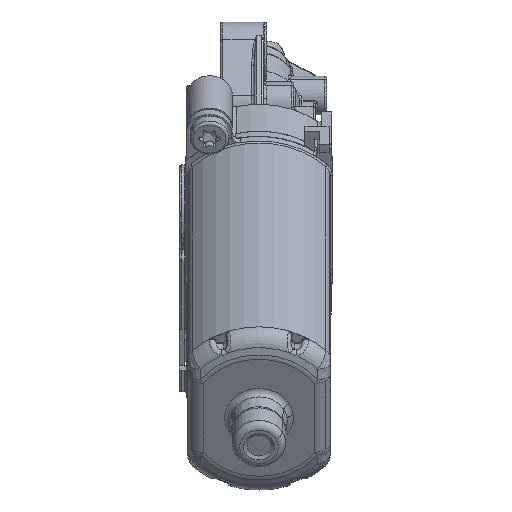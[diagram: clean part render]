
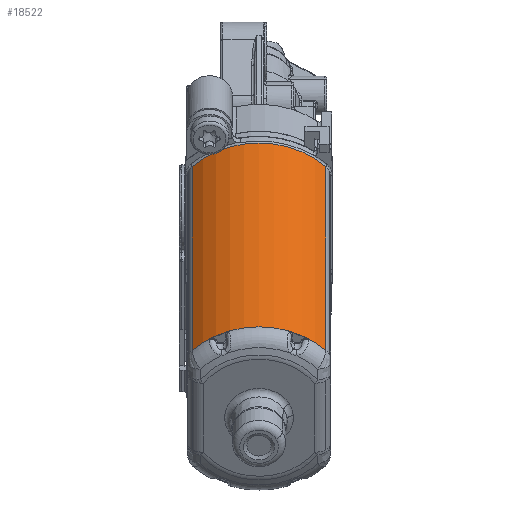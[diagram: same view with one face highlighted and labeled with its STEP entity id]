
A CAD part, left-side view. The second image highlights one B-rep face of the part: STEP entity #18522.
In plain terms, the highlighted cylindrical face has radius 19.525 mm (diameter 39.05 mm), a partial arc.
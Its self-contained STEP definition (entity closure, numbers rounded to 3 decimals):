
#10199=AXIS2_PLACEMENT_3D('Circle Axis2P3D',#10197,#10198,$) ;
#18495=AXIS2_PLACEMENT_3D('Cylinder Axis2P3D',#18492,#18493,#18494) ;
#18506=AXIS2_PLACEMENT_3D('Circle Axis2P3D',#18504,#18505,$) ;
#10194=CARTESIAN_POINT('Vertex',(-43.164,51.413,13.899)) ;
#10197=CARTESIAN_POINT('Axis2P3D Location',(-35.911,37.574,2.19)) ;
#10201=CARTESIAN_POINT('Vertex',(-43.164,23.735,13.899)) ;
#18492=CARTESIAN_POINT('Axis2P3D Location',(-64.561,37.574,-15.555)) ;
#18497=CARTESIAN_POINT('Line Origine',(-71.813,51.413,-3.846)) ;
#18501=CARTESIAN_POINT('Vertex',(-104.545,51.413,-24.119)) ;
#18504=CARTESIAN_POINT('Axis2P3D Location',(-97.292,37.574,-35.829)) ;
#18508=CARTESIAN_POINT('Vertex',(-104.545,23.735,-24.119)) ;
#18511=CARTESIAN_POINT('Line Origine',(-71.813,23.735,-3.846)) ;
#10198=DIRECTION('Axis2P3D Direction',(-0.85,0.,-0.527)) ;
#18493=DIRECTION('Axis2P3D Direction',(-0.85,0.,-0.527)) ;
#18494=DIRECTION('Axis2P3D XDirection',(-0.252,-0.878,0.408)) ;
#18498=DIRECTION('Vector Direction',(-0.85,0.,-0.527)) ;
#18505=DIRECTION('Axis2P3D Direction',(-0.85,0.,-0.527)) ;
#18512=DIRECTION('Vector Direction',(-0.85,0.,-0.527)) ;
#18499=VECTOR('Line Direction',#18498,1.) ;
#18513=VECTOR('Line Direction',#18512,1.) ;
#18517=ORIENTED_EDGE('',*,*,#18503,.F.) ;
#18518=ORIENTED_EDGE('',*,*,#18510,.F.) ;
#18519=ORIENTED_EDGE('',*,*,#18515,.T.) ;
#18520=ORIENTED_EDGE('',*,*,#10203,.F.) ;
#18522=ADVANCED_FACE('',(#18521),#18496,.T.) ;
#10200=CIRCLE('generated circle',#10199,19.525) ;
#18507=CIRCLE('generated circle',#18506,19.525) ;
#18496=CYLINDRICAL_SURFACE('generated cylinder',#18495,19.525) ;
#10203=EDGE_CURVE('',#10195,#10202,#10200,.F.) ;
#18503=EDGE_CURVE('',#18502,#10195,#18500,.F.) ;
#18510=EDGE_CURVE('',#18509,#18502,#18507,.T.) ;
#18515=EDGE_CURVE('',#18509,#10202,#18514,.F.) ;
#18516=EDGE_LOOP('',(#18517,#18518,#18519,#18520)) ;
#18521=FACE_OUTER_BOUND('',#18516,.T.) ;
#18500=LINE('Line',#18497,#18499) ;
#18514=LINE('Line',#18511,#18513) ;
#10195=VERTEX_POINT('',#10194) ;
#10202=VERTEX_POINT('',#10201) ;
#18502=VERTEX_POINT('',#18501) ;
#18509=VERTEX_POINT('',#18508) ;
